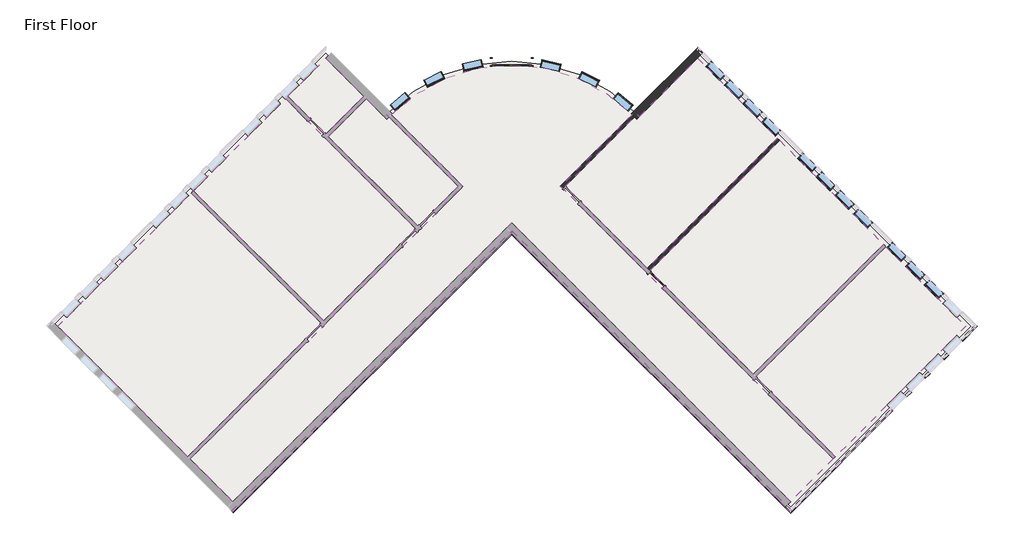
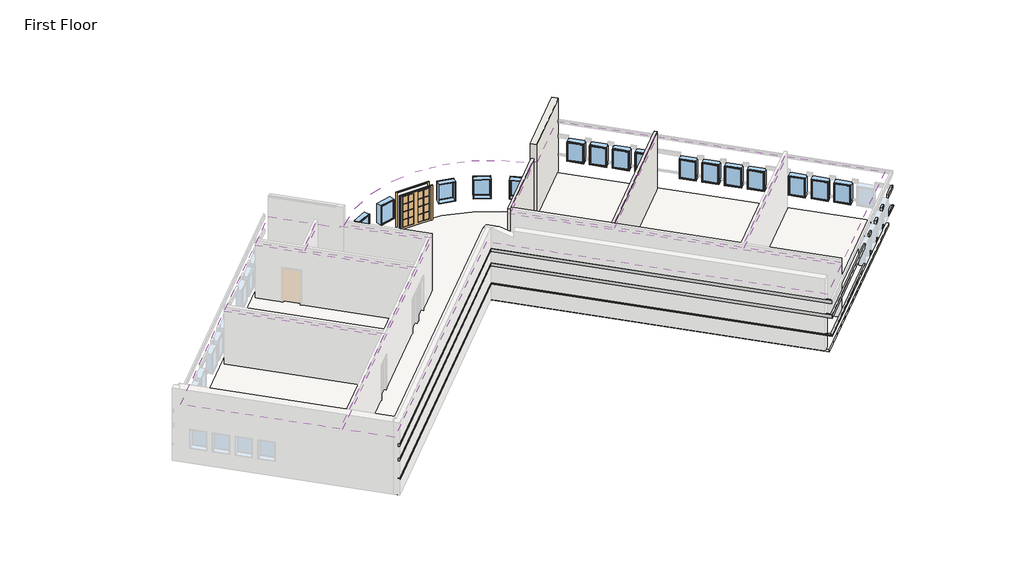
# One storey, part 2 of 3: 17 windows, 9 coverings, 8 proxies, 3 walls, 2 doors, 1 slab.
"""IFC4 building model written with IfcOpenShell, lengths in millimetres."""

from ifc_helpers import new_model, si_unit, point, frame, frame_2d, origin, origin_with_axes, place, context, project, spatial, polyline, circle_curve, trimmed, segment, composite_curve, outline, extrude, faceted_brep, transform, mapped, element, save
from ifc_brep_helpers import plane_surface, cylinder_surface, revolved_surface, advanced_brep
from components import door_0a477ef8, door_5f5b55da, window_15c49d37, window_0e2fc6ce

model = new_model("IFC4")

# Units and contexts
model_context = context("Model", 3, world=origin())
ifc_project = project(units=[si_unit("LENGTHUNIT", "METRE", prefix="MILLI")], contexts=[model_context])

# Site, building, storey
site = spatial("IfcSite", under=ifc_project)
building = spatial("IfcBuilding", under=site)
storey = spatial("IfcBuildingStorey", under=building, Name="First Floor", Elevation=0.0)

# Proxies
placement = place(None, origin())
element("IfcBuildingElementProxy", 1, Name="Wall Sweeps", at=placement, inside=storey, context=model_context, shape_type="Brep", body=[
    faceted_brep([(18554.3726125, -1357.9895101, 1085.85), (18684.5863263, -1357.9895101, 1085.85), (18733.9777349, -1357.9895101, 1041.4), (18733.9777349, -1357.9895101, 1016.0), (18554.3726125, -1357.9895101, 1016.0), (17956.0630484, -1956.2990742, 1085.85), (17956.0630484, -1956.2990742, 1016.0), (18021.1699053, -2021.405931, 1016.0), (18045.8656096, -2046.1016354, 1016.0), (18045.8656096, -2046.1016354, 1041.4), (18021.1699053, -2021.405931, 1085.85), (18370.277362, -1542.0847606, 1085.85), (18370.277362, -1542.0847606, 1016.0)], [[[0, 1, 2, 3, 4]], [[5, 6, 7, 8, 9, 10]], [[1, 0, 11, 5, 10]], [[2, 1, 10, 9]], [[3, 2, 9, 8]], [[4, 3, 8, 7, 6, 12]], [[0, 4, 12, 6, 5, 11]]]),
    faceted_brep([(17309.4846077, -2602.8775149, 1085.85), (17374.5914646, -2667.9843718, 1085.85), (17399.2871689, -2692.6800761, 1041.4), (17399.2871689, -2692.6800761, 1016.0), (17374.5914646, -2667.9843718, 1016.0), (17309.4846077, -2602.8775149, 1016.0), (17093.9584608, -2818.4036618, 1085.85), (17093.9584608, -2818.4036618, 1016.0), (17159.0653177, -2883.5105187, 1016.0), (17183.761022, -2908.206223, 1016.0), (17183.761022, -2908.206223, 1041.4), (17159.0653177, -2883.5105187, 1085.85)], [[[0, 1, 2, 3, 4, 5]], [[6, 7, 8, 9, 10, 11]], [[1, 0, 6, 11]], [[2, 1, 11, 10]], [[3, 2, 10, 9]], [[5, 4, 3, 9, 8, 7]], [[0, 5, 7, 6]]]),
    faceted_brep([(16447.3800201, -3464.9821025, 1085.85), (16512.486877, -3530.0889594, 1085.85), (16537.1825813, -3554.7846637, 1041.4), (16537.1825813, -3554.7846637, 1016.0), (16512.486877, -3530.0889594, 1016.0), (16447.3800201, -3464.9821025, 1016.0), (16231.8538732, -3680.5082494, 1085.85), (16231.8538732, -3680.5082494, 1016.0), (16296.9607301, -3745.6151063, 1016.0), (16321.6564344, -3770.3108106, 1016.0), (16321.6564344, -3770.3108106, 1041.4), (16296.9607301, -3745.6151063, 1085.85)], [[[0, 1, 2, 3, 4, 5]], [[6, 7, 8, 9, 10, 11]], [[1, 0, 6, 11]], [[2, 1, 11, 10]], [[3, 2, 10, 9]], [[5, 4, 3, 9, 8, 7]], [[0, 5, 7, 6]]]),
    faceted_brep([(15585.2754325, -4327.0866901, 1085.85), (15650.3822894, -4392.193547, 1085.85), (15675.0779937, -4416.8892513, 1041.4), (15675.0779937, -4416.8892513, 1016.0), (15650.3822894, -4392.193547, 1016.0), (15585.2754325, -4327.0866901, 1016.0), (15369.7492856, -4542.612837, 1085.85), (15369.7492856, -4542.612837, 1016.0), (15434.8561424, -4607.7196939, 1016.0), (15459.5518468, -4632.4153982, 1016.0), (15459.5518468, -4632.4153982, 1041.4), (15434.8561424, -4607.7196939, 1085.85)], [[[0, 1, 2, 3, 4, 5]], [[6, 7, 8, 9, 10, 11]], [[1, 0, 6, 11]], [[2, 1, 11, 10]], [[3, 2, 10, 9]], [[5, 4, 3, 9, 8, 7]], [[0, 5, 7, 6]]]),
    faceted_brep([(14723.1708449, -5189.1912777, 1085.85), (14788.2777017, -5254.2981346, 1085.85), (14812.9734061, -5278.993839, 1041.4), (14812.9734061, -5278.993839, 1016.0), (14788.2777017, -5254.2981346, 1016.0), (14723.1708449, -5189.1912777, 1016.0), (10063.54045, -9848.8216726, 1085.85), (10063.54045, -9848.8216726, 1016.0), (10063.54045, -10028.426795, 1016.0), (10063.54045, -10028.426795, 1041.4), (10063.54045, -9979.0353863, 1085.85)], [[[0, 1, 2, 3, 4, 5]], [[6, 7, 8, 9, 10]], [[1, 0, 6, 10]], [[2, 1, 10, 9]], [[3, 2, 9, 8]], [[5, 4, 3, 8, 7]], [[0, 5, 7, 6]]]),
])
element("IfcBuildingElementProxy", 2, Name="Wall Sweeps", at=placement, inside=storey, context=model_context, shape_type="Brep", body=[
    faceted_brep([(18684.5863263, -1357.9895101, 2336.8), (18684.5863263, -1357.9895101, 2133.6), (18554.3726125, -1357.9895101, 2133.6), (18554.3726125, -1357.9895101, 2336.8), (18021.1699053, -2021.405931, 2336.8), (17956.0630484, -1956.2990742, 2336.8), (17956.0630484, -1956.2990742, 2133.6), (18021.1699053, -2021.405931, 2133.6), (18435.3842189, -1607.1916175, 2336.8), (18435.3842189, -1607.1916175, 2133.6), (18370.277362, -1542.0847606, 2133.6), (18370.277362, -1542.0847606, 2336.8)], [[[0, 1, 2, 3]], [[4, 5, 6, 7]], [[1, 0, 8, 4, 7, 9]], [[2, 1, 9, 7, 6, 10]], [[3, 2, 10, 6, 5, 11]], [[0, 3, 11, 5, 4, 8]]]),
    faceted_brep([(17374.5914646, -2667.9843718, 2336.8), (17374.5914646, -2667.9843718, 2133.6), (17309.4846077, -2602.8775149, 2133.6), (17309.4846077, -2602.8775149, 2336.8), (17159.0653177, -2883.5105187, 2336.8), (17093.9584608, -2818.4036618, 2336.8), (17093.9584608, -2818.4036618, 2133.6), (17159.0653177, -2883.5105187, 2133.6)], [[[0, 1, 2, 3]], [[4, 5, 6, 7]], [[1, 0, 4, 7]], [[2, 1, 7, 6]], [[3, 2, 6, 5]], [[0, 3, 5, 4]]]),
    faceted_brep([(16512.486877, -3530.0889594, 2336.8), (16512.486877, -3530.0889594, 2133.6), (16447.3800201, -3464.9821025, 2133.6), (16447.3800201, -3464.9821025, 2336.8), (16296.9607301, -3745.6151063, 2336.8), (16231.8538732, -3680.5082494, 2336.8), (16231.8538732, -3680.5082494, 2133.6), (16296.9607301, -3745.6151063, 2133.6)], [[[0, 1, 2, 3]], [[4, 5, 6, 7]], [[1, 0, 4, 7]], [[2, 1, 7, 6]], [[3, 2, 6, 5]], [[0, 3, 5, 4]]]),
    faceted_brep([(15650.3822894, -4392.193547, 2336.8), (15650.3822894, -4392.193547, 2133.6), (15585.2754325, -4327.0866901, 2133.6), (15585.2754325, -4327.0866901, 2336.8), (15434.8561424, -4607.7196939, 2336.8), (15369.7492856, -4542.612837, 2336.8), (15369.7492856, -4542.612837, 2133.6), (15434.8561424, -4607.7196939, 2133.6)], [[[0, 1, 2, 3]], [[4, 5, 6, 7]], [[1, 0, 4, 7]], [[2, 1, 7, 6]], [[3, 2, 6, 5]], [[0, 3, 5, 4]]]),
    faceted_brep([(14788.2777017, -5254.2981346, 2336.8), (14788.2777017, -5254.2981346, 2133.6), (14723.1708449, -5189.1912777, 2133.6), (14723.1708449, -5189.1912777, 2336.8), (10063.54045, -9979.0353863, 2336.8), (10063.54045, -9848.8216726, 2336.8), (10063.54045, -9848.8216726, 2133.6), (10063.54045, -9979.0353863, 2133.6)], [[[0, 1, 2, 3]], [[4, 5, 6, 7]], [[1, 0, 4, 7]], [[2, 1, 7, 6]], [[3, 2, 6, 5]], [[0, 3, 5, 4]]]),
])
element("IfcBuildingElementProxy", 3, Name="Wall Sweeps", at=placement, inside=storey, context=model_context, shape_type="Brep", body=[
    faceted_brep([(10063.54045, -9848.8216726, 1085.85), (10063.54045, -9979.0353863, 1085.85), (10063.54045, -10028.426795, 1041.4), (10063.54045, -10028.426795, 1016.0), (10063.54045, -9848.8216726, 1016.0), (-2868.0283643, 3082.7471418, 1085.85), (-2868.0283643, 3082.7471418, 1016.0), (-2868.0283643, 2903.1420194, 1016.0), (-2868.0283643, 2903.1420194, 1041.4), (-2868.0283643, 2952.533428, 1085.85), (9879.4451996, -9664.7264221, 1085.85), (9879.4451996, -9664.7264221, 1016.0)], [[[0, 1, 2, 3, 4]], [[5, 6, 7, 8, 9]], [[1, 0, 10, 5, 9]], [[2, 1, 9, 8]], [[3, 2, 8, 7]], [[4, 3, 7, 6, 11]], [[0, 4, 11, 6, 5, 10]]]),
])
element("IfcBuildingElementProxy", 4, Name="Wall Sweeps", at=placement, inside=storey, context=model_context, shape_type="Brep", body=[
    faceted_brep([(10063.54045, -9979.0353863, 2336.8), (10063.54045, -9979.0353863, 2133.6), (10063.54045, -9848.8216726, 2133.6), (10063.54045, -9848.8216726, 2336.8), (-2868.0283643, 2952.533428, 2336.8), (-2868.0283643, 3082.7471418, 2336.8), (-2868.0283643, 3082.7471418, 2133.6), (-2868.0283643, 2952.533428, 2133.6), (9814.3383427, -9729.833279, 2336.8), (9814.3383427, -9729.833279, 2133.6), (9879.4451996, -9664.7264221, 2133.6), (9879.4451996, -9664.7264221, 2336.8)], [[[0, 1, 2, 3]], [[4, 5, 6, 7]], [[1, 0, 8, 4, 7, 9]], [[2, 1, 9, 7, 6, 10]], [[3, 2, 10, 6, 5, 11]], [[0, 3, 11, 5, 4, 8]]]),
])
element("IfcBuildingElementProxy", 5, Name="Wall Sweeps", at=placement, inside=storey, context=model_context, shape_type="Brep", body=[
    faceted_brep([(10063.54045, -9979.0353863, 3251.2), (10063.54045, -9979.0353863, 3048.0), (10063.54045, -9848.8216726, 3048.0), (10063.54045, -9848.8216726, 3251.2), (-2868.0283643, 2952.533428, 3251.2), (-2868.0283643, 3082.7471418, 3251.2), (-2868.0283643, 3082.7471418, 3048.0), (-2868.0283643, 2952.533428, 3048.0), (9814.3383427, -9729.833279, 3251.2), (9814.3383427, -9729.833279, 3048.0), (9879.4451996, -9664.7264221, 3048.0), (9879.4451996, -9664.7264221, 3251.2)], [[[0, 1, 2, 3]], [[4, 5, 6, 7]], [[1, 0, 8, 4, 7, 9]], [[2, 1, 9, 7, 6, 10]], [[3, 2, 10, 6, 5, 11]], [[0, 3, 11, 5, 4, 8]]]),
])
element("IfcBuildingElementProxy", 6, Name="Wall Sweeps", at=placement, inside=storey, context=model_context, shape_type="Brep", body=[
    faceted_brep([(-2868.0283643, 3082.7471418, 1085.85), (-2868.0283643, 2952.533428, 1085.85), (-2868.0283643, 2903.1420194, 1041.4), (-2868.0283643, 2903.1420194, 1016.0), (-2868.0283643, 3082.7471418, 1016.0), (-15864.7040355, -9913.9285294, 1085.85), (-15864.7040355, -9913.9285294, 1016.0), (-15799.5971786, -9979.0353863, 1016.0), (-15774.9014743, -10003.7310907, 1016.0), (-15774.9014743, -10003.7310907, 1041.4), (-15799.5971786, -9979.0353863, 1085.85), (-2933.1352212, 3017.6402849, 1085.85), (-2933.1352212, 3017.6402849, 1016.0)], [[[0, 1, 2, 3, 4]], [[5, 6, 7, 8, 9, 10]], [[1, 0, 11, 5, 10]], [[2, 1, 10, 9]], [[3, 2, 9, 8]], [[4, 3, 8, 7, 6, 12]], [[0, 4, 12, 6, 5, 11]]]),
])
element("IfcBuildingElementProxy", 7, Name="Wall Sweeps", at=placement, inside=storey, context=model_context, shape_type="Brep", body=[
    faceted_brep([(-2868.0283643, 2952.533428, 2336.8), (-2868.0283643, 2952.533428, 2133.6), (-2868.0283643, 3082.7471418, 2133.6), (-2868.0283643, 3082.7471418, 2336.8), (-15799.5971786, -9979.0353863, 2336.8), (-15864.7040355, -9913.9285294, 2336.8), (-15864.7040355, -9913.9285294, 2133.6), (-15799.5971786, -9979.0353863, 2133.6), (-2933.1352212, 3017.6402849, 2133.6), (-2933.1352212, 3017.6402849, 2336.8)], [[[0, 1, 2, 3]], [[4, 5, 6, 7]], [[1, 0, 4, 7]], [[2, 1, 7, 6, 8]], [[3, 2, 8, 6, 5, 9]], [[0, 3, 9, 5, 4]]]),
])
element("IfcBuildingElementProxy", 8, Name="Wall Sweeps", at=placement, inside=storey, context=model_context, shape_type="Brep", body=[
    faceted_brep([(-2868.0283643, 2952.533428, 3251.2), (-2868.0283643, 2952.533428, 3048.0), (-2868.0283643, 3082.7471418, 3048.0), (-2868.0283643, 3082.7471418, 3251.2), (-15799.5971786, -9979.0353863, 3251.2), (-15864.7040355, -9913.9285294, 3251.2), (-15864.7040355, -9913.9285294, 3048.0), (-15799.5971786, -9979.0353863, 3048.0), (-2933.1352212, 3017.6402849, 3048.0), (-2933.1352212, 3017.6402849, 3251.2)], [[[0, 1, 2, 3]], [[4, 5, 6, 7]], [[1, 0, 4, 7]], [[2, 1, 7, 6, 8]], [[3, 2, 8, 6, 5, 9]], [[0, 3, 9, 5, 4]]]),
])

# Coverings
element("IfcCovering", 9, ObjectType="2' x 2' ACT System", at=placement, inside=storey, context=model_context, shape_type="SweptSolid", body=[
    extrude(outline(polyline([(-17633.6967091, 4930.552621), (-13359.2125777, 9205.0367523), (-7322.2354004, 3168.0595749), (-11596.7195317, -1106.4245564), (-17633.6967091, 4930.552621)])), frame((0.0, 0.0, 3352.8), z_axis=(0.0, 0.0, 1.0), x_axis=(1.0, 0.0, 0.0)), (0.0, 0.0, 1.0), 57.15),
])
element("IfcCovering", 10, ObjectType="2' x 2' ACT System", at=placement, inside=storey, context=model_context, shape_type="SweptSolid", body=[
    extrude(outline(polyline([(-11706.7276692, -1216.4326939), (-17885.2616628, -7394.9666875), (-23922.2388402, -1357.9895101), (-17743.7048466, 4820.5444835), (-11706.7276692, -1216.4326939)])), frame((0.0, 0.0, 3352.8), z_axis=(0.0, 0.0, 1.0), x_axis=(1.0, 0.0, 0.0)), (0.0, 0.0, 1.0), 57.15),
])
element("IfcCovering", 11, ObjectType="2' x 2' ACT System", at=placement, inside=storey, context=model_context, shape_type="SweptSolid", body=[
    extrude(outline(composite_curve([segment(polyline([(-607.4844504, 5141.7064221), (12039.1967967, -7504.974825), (10063.54045, -9480.6311716), (-2868.0283643, 3450.9376427), (-15799.5971786, -9480.6311716), (-17775.2535253, -7504.974825), (-5128.5722782, 5141.7064221), (-8449.0111375, 8462.1452813)]), True, "CONTINUOUS"), segment(trimmed(circle_curve(frame_2d((-2868.0283643, 2903.1420194)), 7877.175), [point((-8449.0111375, 8462.1452813))], [point((2712.9544089, 8462.1452813))], False, "CARTESIAN"), True, "CONTINUOUS"), segment(polyline([(2712.9544089, 8462.1452813), (-607.4844504, 5141.7064221)]), True, "CONTINUOUS")], self_intersect=False)), frame((0.0, 0.0, 3352.8), z_axis=(0.0, 0.0, 1.0), x_axis=(1.0, 0.0, 0.0)), (0.0, 0.0, 1.0), 57.15),
])
element("IfcCovering", 12, ObjectType="2' x 2' ACT System", at=placement, inside=storey, context=model_context, shape_type="SweptSolid", body=[
    extrude(outline(polyline([(-13249.2044403, 9315.0448898), (-11489.0742405, 11075.1750895), (-9728.9440408, 9315.0448898), (-11489.0742405, 7554.9146901), (-13249.2044403, 9315.0448898)])), frame((0.0, 0.0, 3352.8), z_axis=(0.0, 0.0, 1.0), x_axis=(1.0, 0.0, 0.0)), (0.0, 0.0, 1.0), 57.15),
])
element("IfcCovering", 13, ObjectType="2' x 2' ACT System", at=placement, inside=storey, context=model_context, shape_type="SweptSolid", body=[
    extrude(outline(polyline([(-11379.066103, 7444.9065526), (-9618.9359033, 9205.0367523), (-8786.2632499, 8372.3640989), (-8682.75474, 8475.8726089), (-5348.5885532, 5141.7064221), (-7212.2272629, 3278.0677124), (-11379.066103, 7444.9065526)])), frame((0.0, 0.0, 3352.8), z_axis=(0.0, 0.0, 1.0), x_axis=(1.0, 0.0, 0.0)), (0.0, 0.0, 1.0), 57.15),
])
element("IfcCovering", 14, ObjectType="2' x 2' ACT System", at=placement, inside=storey, context=model_context, shape_type="SweptSolid", body=[
    extrude(outline(composite_curve([segment(polyline([(-607.4844504, 5141.7064221), (12039.1967967, -7504.974825), (10063.54045, -9480.6311716), (-2868.0283643, 3450.9376427), (-15799.5971786, -9480.6311716), (-17775.2535253, -7504.974825), (-5128.5722782, 5141.7064221), (-8449.0111375, 8462.1452813)]), True, "CONTINUOUS"), segment(trimmed(circle_curve(frame_2d((-2868.0283643, 2903.1420194)), 7877.175), [point((-8449.0111375, 8462.1452813))], [point((2712.9544089, 8462.1452813))], False, "CARTESIAN"), True, "CONTINUOUS"), segment(polyline([(2712.9544089, 8462.1452813), (-607.4844504, 5141.7064221)]), True, "CONTINUOUS")], self_intersect=False)), frame((0.0, 0.0, 3352.8), z_axis=(0.0, 0.0, 1.0), x_axis=(1.0, 0.0, 0.0)), (0.0, 0.0, 1.0), 57.15),
])
element("IfcCovering", 15, ObjectType="2' x 2' ACT System", at=placement, inside=storey, context=model_context, shape_type="SweptSolid", body=[
    extrude(outline(polyline([(2946.6980114, 8475.8726089), (3050.2065213, 8372.3640989), (5753.0175119, 11075.1750895), (9452.8830338, 7375.3095676), (3415.9058564, 1338.3323903), (-387.4681754, 5141.7064221), (2946.6980114, 8475.8726089)])), frame((0.0, 0.0, 3352.8), z_axis=(0.0, 0.0, 1.0), x_axis=(1.0, 0.0, 0.0)), (0.0, 0.0, 1.0), 57.15),
])
element("IfcCovering", 16, ObjectType="2' x 2' ACT System", at=placement, inside=storey, context=model_context, shape_type="SweptSolid", body=[
    extrude(outline(polyline([(3525.9139939, 1228.3242528), (9562.8911713, 7265.3014302), (14376.3084522, 2451.8841493), (8339.3312748, -3585.0930281), (3525.9139939, 1228.3242528)])), frame((0.0, 0.0, 3352.8), z_axis=(0.0, 0.0, 1.0), x_axis=(1.0, 0.0, 0.0)), (0.0, 0.0, 1.0), 57.15),
])
element("IfcCovering", 17, ObjectType="2' x 2' ACT System", at=placement, inside=storey, context=model_context, shape_type="SweptSolid", body=[
    extrude(outline(polyline([(8449.3394123, -3695.1011656), (14486.3165897, 2341.8760118), (18186.1821115, -1357.9895101), (12149.2049342, -7394.9666875), (8449.3394123, -3695.1011656)])), frame((0.0, 0.0, 3352.8), z_axis=(0.0, 0.0, 1.0), x_axis=(1.0, 0.0, 0.0)), (0.0, 0.0, 1.0), 57.15),
])

# Doors
door_shape = door_0a477ef8(model_context)
element("IfcDoor", 18, ObjectType="Double-Glass 2 : 72\" x 84\"", at=placement, inside=storey, context=model_context, shape_type="MappedRepresentation", body=[
    mapped(door_shape, transform((-2868.7603243, 10905.5717204, 0.0), x_axis=(-0.9999999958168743, -9.146721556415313e-05, 0.0), y_axis=(9.146721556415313e-05, -0.9999999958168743, 0.0), z_axis=(0.0, 0.0, 1.0))),
])
door_2_shape = door_5f5b55da(model_context)
element("IfcDoor", 19, ObjectType="Single-Glass 1 : 36\" x 84\"", at=placement, inside=storey, context=model_context, shape_type="MappedRepresentation", body=[
    mapped(door_2_shape, transform((3846.9581502, 797.271959, 0.0), x_axis=(-0.7071067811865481, 0.7071067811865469, 0.0), y_axis=(-0.7071067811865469, -0.7071067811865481, 0.0), z_axis=(0.0, 0.0, 1.0))),
])

# Slab
element("IfcSlab", 20, ObjectType="LW Concrete on Metal Deck", at=placement, inside=storey, context=model_context, shape_type="SweptSolid", body=[
    extrude(outline(composite_curve([segment(polyline([(-11489.0742405, 11308.6617487), (-8661.5174871, 8481.1049952)]), True, "CONTINUOUS"), segment(trimmed(circle_curve(frame_2d((-2868.0283643, 2903.1420194)), 8042.275), [point((-8661.5174871, 8481.1049952))], [point((2925.4607585, 8481.1049952))], False, "CARTESIAN"), True, "CONTINUOUS"), segment(polyline([(2925.4607585, 8481.1049952), (5753.0175119, 11308.6617487), (18419.6687707, -1357.9895101), (10063.54045, -9714.1178307), (-2868.0283643, 3217.4509836), (-15799.5971786, -9714.1178307), (-24155.7254993, -1357.9895101), (-11489.0742405, 11308.6617487)]), True, "CONTINUOUS")], self_intersect=False)), frame((0.0, 0.0, -139.7), z_axis=(0.0, 0.0, 1.0), x_axis=(1.0, 0.0, 0.0)), (0.0, 0.0, 1.0), 139.7),
])

# Walls
element("IfcWall", 21, ObjectType="Exterior - Split Face and CMU on Mtl. Stud", at=placement, inside=storey, context=model_context, shape_type="AdvancedBrep", body=[
    advanced_brep(
    [(2921.9555443, 8244.1131219, 0.0), (5753.0175119, 11075.1750895, 0.0), (6002.2196193, 11324.3771969, 0.0), (6002.2196193, 11324.3771969, 1016.0), (5937.1127624, 11259.27034, 1016.0), (5937.1127624, 11259.27034, 1085.85), (6002.2196193, 11324.3771969, 1085.85), (6002.2196193, 11324.3771969, 2133.6), (5937.1127624, 11259.27034, 2133.6), (5937.1127624, 11259.27034, 2336.8), (6002.2196193, 11324.3771969, 2336.8), (6002.2196193, 11324.3771969, 3048.0), (5937.1127624, 11259.27034, 3048.0), (5937.1127624, 11259.27034, 3251.2), (6002.2196193, 11324.3771969, 3251.2), (6002.2196193, 11324.3771969, 4572.0), (5753.0175119, 11075.1750895, 4572.0), (2921.9555443, 8244.1131219, 4572.0), (2677.2250436, 8497.7868359, 4572.0), (2926.4294954, 8746.9912878, 4572.0), (5753.0175119, 11573.5793042, 4572.0), (5753.0175119, 11573.5793042, 3251.2), (2926.4294954, 8746.9912878, 3251.2), (2861.3220456, 8681.8838379, 3251.2), (2861.3220456, 8681.8838379, 3048.0), (2926.4294954, 8746.9912878, 3048.0), (5753.0175119, 11573.5793042, 3048.0), (5753.0175119, 11573.5793042, 2336.8), (2926.4294954, 8746.9912878, 2336.8), (2861.3220456, 8681.8838379, 2336.8), (2861.3220456, 8681.8838379, 2133.6), (2926.4294954, 8746.9912878, 2133.6), (5753.0175119, 11573.5793042, 2133.6), (5753.0175119, 11573.5793042, 1085.85), (2926.4294954, 8746.9912878, 1085.85), (2861.3220456, 8681.8838379, 1085.85), (2861.3220456, 8681.8838379, 1016.0), (2926.4294954, 8746.9912878, 1016.0), (5753.0175119, 11573.5793042, 1016.0), (5753.0175119, 11573.5793042, 0.0), (2926.4294954, 8746.9912878, 0.0), (2677.2250436, 8497.7868359, 0.0), (5818.1243688, 11508.4724474, 0.0), (2712.9544089, 8462.1452813, 0.0), (2742.2400511, 8432.5881297, 0.0), (2821.6568654, 8350.8358404, 0.0), (5753.0175119, 11443.3655905, 1085.85), (2926.3399919, 8616.6880705, 1085.85), (2926.3399919, 8616.6880705, 1016.0), (5753.0175119, 11443.3655905, 1016.0), (2926.3399919, 8616.6880705, 2133.6), (5753.0175119, 11443.3655905, 2133.6), (2926.3399919, 8616.6880705, 2336.8), (5753.0175119, 11443.3655905, 2336.8), (2926.3399919, 8616.6880705, 3048.0), (5753.0175119, 11443.3655905, 3048.0), (2926.3399919, 8616.6880705, 3251.2), (5753.0175119, 11443.3655905, 3251.2)],
    [
        (0, 1),
        (1, 2),
        (2, 3),
        (3, 4),
        (4, 5),
        (5, 6),
        (6, 7),
        (7, 8),
        (8, 9),
        (9, 10),
        (10, 11),
        (11, 12),
        (12, 13),
        (13, 14),
        (14, 15),
        (15, 16),
        (16, 17),
        (17, 0),
        (18, 19),
        (19, 20),
        (20, 21),
        (21, 22),
        (22, 23),
        (23, 24),
        (24, 25),
        (25, 26),
        (26, 27),
        (27, 28),
        (28, 29),
        (29, 30),
        (30, 31),
        (31, 32),
        (32, 33),
        (33, 34),
        (34, 35),
        (35, 36),
        (36, 37),
        (37, 38),
        (38, 39),
        (39, 40),
        (40, 41),
        (41, 18),
        (15, 20),
        (18, 17, circle_curve(frame((-2868.0283643, 2903.1420194, 4572.0), z_axis=(0.0, 0.0, -1.0), x_axis=(1.0, 0.0, 0.0)), 7877.175)),
        (14, 21),
        (2, 42),
        (42, 39),
        (38, 3),
        (6, 33),
        (32, 7),
        (10, 27),
        (26, 11),
        (41, 43, circle_curve(frame((-2868.0283643, 2903.1420194, 0.0), z_axis=(0.0, 0.0, -1.0), x_axis=(1.0, 0.0, 0.0)), 7877.175)),
        (43, 44, circle_curve(frame((-2868.0283643, 2903.1420194, 0.0), z_axis=(0.0, 0.0, -1.0), x_axis=(1.0, 0.0, 0.0)), 7877.175)),
        (44, 45, circle_curve(frame((-2868.0283643, 2903.1420194, 0.0), z_axis=(0.0, 0.0, -1.0), x_axis=(1.0, 0.0, 0.0)), 7877.175)),
        (45, 0, circle_curve(frame((-2868.0283643, 2903.1420194, 0.0), z_axis=(0.0, 0.0, -1.0), x_axis=(1.0, 0.0, 0.0)), 7877.175)),
        (44, 42),
        (46, 47),
        (47, 35, circle_curve(frame((-2868.0283643, 2903.1420194, 1085.85), z_axis=(0.0, 0.0, 1.0), x_axis=(0.6844196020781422, 0.7290883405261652, 0.0)), 8137.525)),
        (5, 46),
        (48, 49),
        (49, 4),
        (36, 48, circle_curve(frame((-2868.0283643, 2903.1420194, 1016.0), z_axis=(0.0, 0.0, -1.0), x_axis=(0.6844196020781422, 0.7290883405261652, 0.0)), 8137.525)),
        (47, 48),
        (46, 49),
        (50, 51),
        (51, 8),
        (30, 50, circle_curve(frame((-2868.0283643, 2903.1420194, 2133.6), z_axis=(0.0, 0.0, -1.0), x_axis=(0.6844196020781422, 0.7290883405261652, 0.0)), 8137.525)),
        (52, 50),
        (29, 52, circle_curve(frame((-2868.0283643, 2903.1420194, 2336.8), z_axis=(0.0, 0.0, -1.0), x_axis=(0.6844196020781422, 0.7290883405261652, 0.0)), 8137.525)),
        (53, 52),
        (9, 53),
        (53, 51),
        (54, 55),
        (55, 12),
        (24, 54, circle_curve(frame((-2868.0283643, 2903.1420194, 3048.0), z_axis=(0.0, 0.0, -1.0), x_axis=(-0.7040995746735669, 0.7101012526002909, 0.0)), 8137.525)),
        (56, 54),
        (23, 56, circle_curve(frame((-2868.0283643, 2903.1420194, 3251.2), z_axis=(0.0, 0.0, -1.0), x_axis=(-0.7040995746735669, 0.7101012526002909, 0.0)), 8137.525)),
        (57, 56),
        (13, 57),
        (57, 55),
    ],
    [
        plane_surface(frame((2984.8535626, 8307.0111402, 0.0), z_axis=(0.707106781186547, -0.7071067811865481, 0.0), x_axis=(0.7071067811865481, 0.707106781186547, 0.0))),
        plane_surface(frame((2735.6514552, 8556.2132476, 0.0), z_axis=(-0.707106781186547, 0.7071067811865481, 0.0), x_axis=(-0.7071067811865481, -0.707106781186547, 0.0))),
        plane_surface(frame((5877.6185656, 11199.7761432, 4572.0), z_axis=(0.0, 0.0, 1.0), x_axis=(-0.707106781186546, 0.7071067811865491, 0.0))),
        plane_surface(frame((5753.0175119, 11573.5793042, 0.0), z_axis=(0.7071067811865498, 0.7071067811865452, 0.0), x_axis=(-0.7071067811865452, 0.7071067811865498, 0.0))),
        revolved_surface(polyline([(5009.146635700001, 2903.1420194, 0.0), (5009.146635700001, 2903.1420194, 4572.0)]), (-2868.0283643, 2903.1420194, 0.0), (0.0, 0.0, -1.0)),
        plane_surface(frame((3050.2065213, 8372.3640989, 0.0), z_axis=(0.0, 0.0, -1.0000000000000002), x_axis=(-0.7071067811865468, 0.7071067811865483, 0.0))),
        plane_surface(frame((0.0, 0.0, 0.0), z_axis=(0.0, 0.0, -1.0), x_axis=(1.0, 0.0, 0.0))),
        plane_surface(frame((-2868.0283643, 2903.1420194, 1085.85), z_axis=(0.0, 0.0, -1.0), x_axis=(0.6844196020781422, 0.7290883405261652, 0.0))),
        plane_surface(frame((-2868.0283643, 2903.1420194, 1016.0), z_axis=(0.0, 0.0, 1.0), x_axis=(0.6844196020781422, 0.7290883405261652, 0.0))),
        cylinder_surface(frame((-2868.0283643, 2903.1420194, 1016.0), z_axis=(0.0, 0.0, -1.0), x_axis=(0.6844196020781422, 0.7290883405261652, 0.0)), 8137.525),
        plane_surface(frame((2926.3399919, 8616.6880705, 1016.0), z_axis=(-0.7071067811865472, 0.7071067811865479, 0.0), x_axis=(0.7071067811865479, 0.7071067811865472, 0.0))),
        plane_surface(frame((5753.0175119, 11443.3655905, 1016.0), z_axis=(0.7071067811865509, 0.7071067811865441, 0.0), x_axis=(0.7071067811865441, -0.7071067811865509, 0.0))),
        plane_surface(frame((-2868.0283643, 2903.1420194, 2133.6), z_axis=(0.0, 0.0, 1.0), x_axis=(0.6844196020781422, 0.7290883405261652, 0.0))),
        cylinder_surface(frame((-2868.0283643, 2903.1420194, 2133.6), z_axis=(0.0, 0.0, -1.0), x_axis=(0.6844196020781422, 0.7290883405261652, 0.0)), 8137.525),
        plane_surface(frame((-2868.0283643, 2903.1420194, 2336.8), z_axis=(0.0, 0.0, -1.0), x_axis=(0.6844196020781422, 0.7290883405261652, 0.0))),
        plane_surface(frame((2926.3399919, 8616.6880705, 2133.6), z_axis=(-0.7071067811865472, 0.7071067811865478, 0.0), x_axis=(0.7071067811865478, 0.7071067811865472, 0.0))),
        plane_surface(frame((5753.0175119, 11443.3655905, 2133.6), z_axis=(0.7071067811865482, 0.7071067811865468, 0.0), x_axis=(0.7071067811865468, -0.7071067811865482, 0.0))),
        plane_surface(frame((-2868.0283643, 2903.1420194, 3048.0), z_axis=(0.0, 0.0, 1.0), x_axis=(-0.7040995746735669, 0.7101012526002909, 0.0))),
        cylinder_surface(frame((-2868.0283643, 2903.1420194, 3048.0), z_axis=(0.0, 0.0, -1.0), x_axis=(-0.7040995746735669, 0.7101012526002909, 0.0)), 8137.525),
        plane_surface(frame((-2868.0283643, 2903.1420194, 3251.2), z_axis=(0.0, 0.0, -1.0), x_axis=(-0.7040995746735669, 0.7101012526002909, 0.0))),
        plane_surface(frame((2926.3399919, 8616.6880705, 3048.0), z_axis=(-0.7071067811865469, 0.7071067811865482, 0.0), x_axis=(0.7071067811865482, 0.7071067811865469, 0.0))),
        plane_surface(frame((5753.0175119, 11443.3655905, 3048.0), z_axis=(0.7071067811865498, 0.7071067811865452, 0.0), x_axis=(0.7071067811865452, -0.7071067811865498, 0.0))),
    ],
    [
        (0, [[1, 2, 3, 4, 5, 6, 7, 8, 9, 10, 11, 12, 13, 14, 15, 16, 17, 18]]),
        (1, [[19, 20, 21, 22, 23, 24, 25, 26, 27, 28, 29, 30, 31, 32, 33, 34, 35, 36, 37, 38, 39, 40, 41, 42]]),
        (2, [[-17, -16, 43, -20, -19, 44]]),
        (3, [[-43, -15, 45, -21]]),
        (3, [[46, 47, -39, 48, -3]]),
        (3, [[49, -33, 50, -7]]),
        (3, [[51, -27, 52, -11]]),
        (4, [[-44, -42, 53, 54, 55, 56, -18]]),
        (5, [[-2, -1, -56, -55, 57, -46]]),
        (6, [[-54, -53, -41, -40, -47, -57]]),
        (7, [[58, 59, -35, -34, -49, -6, 60]]),
        (8, [[61, 62, -4, -48, -38, -37, 63]]),
        (9, [[64, -63, -36, -59]]),
        (10, [[-58, 65, -61, -64]]),
        (11, [[-65, -60, -5, -62]]),
        (12, [[66, 67, -8, -50, -32, -31, 68]]),
        (13, [[69, -68, -30, 70]]),
        (14, [[71, -70, -29, -28, -51, -10, 72]]),
        (15, [[-66, -69, -71, 73]]),
        (16, [[-73, -72, -9, -67]]),
        (17, [[74, 75, -12, -52, -26, -25, 76]]),
        (18, [[77, -76, -24, 78]]),
        (19, [[79, -78, -23, -22, -45, -14, 80]]),
        (20, [[-74, -77, -79, 81]]),
        (21, [[-81, -80, -13, -75]]),
    ],
),
])
element("IfcWall", 22, ObjectType="Interior - 6 1/8\" Partition (2-hr)", at=placement, inside=storey, context=model_context, shape_type="AdvancedBrep", body=[
    advanced_brep(
    [(-497.4763129, 5031.6982846, 0.0), (-387.4681754, 5141.7064221, 0.0), (2821.6590066, 8350.8336041, 0.0), (2821.6590066, 8350.8336041, 3657.6), (-387.4681754, 5141.7064221, 3657.6), (-497.4763129, 5031.6982846, 3657.6), (-607.4844504, 5141.7064221, 0.0), (-607.4844504, 5141.7064221, 3657.6), (2712.9544089, 8462.1452813, 3657.6), (2712.9544089, 8462.1452813, 0.0)],
    [
        (0, 1),
        (1, 2),
        (2, 3),
        (3, 4),
        (4, 5),
        (5, 0),
        (6, 7),
        (7, 8),
        (8, 9),
        (9, 6),
        (0, 6),
        (9, 2, circle_curve(frame((-2868.0283643, 2903.1420194, 0.0), z_axis=(0.0, 0.0, -1.0), x_axis=(1.0, 0.0, 0.0)), 7877.175)),
        (3, 8, circle_curve(frame((-2868.0283643, 2903.1420194, 3657.6), z_axis=(0.0, 0.0, 1.0), x_axis=(1.0, 0.0, 0.0)), 7877.175)),
        (7, 5),
    ],
    [
        plane_surface(frame((-442.4722441, 5086.7023533, 0.0), z_axis=(0.7071067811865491, -0.7071067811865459, 0.0), x_axis=(0.7071067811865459, 0.7071067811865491, 0.0))),
        plane_surface(frame((-552.4803816, 5196.7104908, 0.0), z_axis=(-0.7071067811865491, 0.7071067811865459, 0.0), x_axis=(-0.7071067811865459, -0.7071067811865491, 0.0))),
        plane_surface(frame((-442.4722441, 5086.7023533, 0.0), z_axis=(0.0, 0.0, -1.0), x_axis=(-0.707106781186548, 0.7071067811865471, 0.0))),
        plane_surface(frame((2947.192033, 8476.3666305, 3657.6), z_axis=(0.0, 0.0, 1.0000000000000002), x_axis=(-0.7071067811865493, 0.7071067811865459, 0.0))),
        plane_surface(frame((12163.7978503, -7629.5758786, 0.0), z_axis=(-0.7071067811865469, -0.7071067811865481, 0.0), x_axis=(0.7071067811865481, -0.7071067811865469, 0.0))),
        cylinder_surface(frame((-2868.0283643, 2903.1420194, 0.0), z_axis=(0.0, 0.0, -1.0), x_axis=(1.0, 0.0, 0.0)), 7877.175),
    ],
    [
        (0, [[1, 2, 3, 4, 5, 6]]),
        (1, [[7, 8, 9, 10]]),
        (2, [[-2, -1, 11, -10, 12]]),
        (3, [[-5, -4, 13, -8, 14]]),
        (4, [[-6, -14, -7, -11]]),
        (5, [[-3, -12, -9, -13]]),
    ],
),
])
element("IfcWall", 23, ObjectType="Interior - 6 1/8\" Partition (2-hr)", at=placement, inside=storey, context=model_context, shape_type="SweptSolid", body=[
    extrude(outline(polyline([(3415.9058564, 1338.3323903), (9452.8830338, 7375.3095676), (9562.8911713, 7265.3014302), (3525.9139939, 1228.3242528), (3415.9058564, 1338.3323903)])), origin_with_axes(), (0.0, 0.0, 1.0), 3657.6),
])

# Windows
window_shape = window_15c49d37(model_context)
element("IfcWindow", 24, ObjectType="Fixed : 36\" x 48\"", at=placement, inside=storey, context=model_context, shape_type="MappedRepresentation", body=[
    mapped(window_shape, transform((-8066.2237793, 9037.6928325, 0.0), x_axis=(-0.7659856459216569, -0.6428576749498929, 0.0), y_axis=(0.6428576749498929, -0.7659856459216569, 0.0), z_axis=(0.0, 0.0, 1.0))),
])
element("IfcWindow", 25, ObjectType="Fixed : 36\" x 48\"", at=placement, inside=storey, context=model_context, shape_type="MappedRepresentation", body=[
    mapped(window_shape, transform((-4714.6266038, 10728.998151, 0.0), x_axis=(-0.9743494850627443, -0.2250401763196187, 0.0), y_axis=(0.2250401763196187, -0.9743494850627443, 0.0), z_axis=(0.0, 0.0, 1.0))),
])
element("IfcWindow", 26, ObjectType="Fixed : 36\" x 48\"", at=placement, inside=storey, context=model_context, shape_type="MappedRepresentation", body=[
    mapped(window_shape, transform((-6490.5147795, 10081.6893252, 0.0), x_axis=(-0.8948935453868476, -0.4462796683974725, 0.0), y_axis=(0.4462796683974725, -0.8948935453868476, 0.0), z_axis=(0.0, 0.0, 1.0))),
])
element("IfcWindow", 27, ObjectType="Fixed : 36\" x 48\"", at=placement, inside=storey, context=model_context, shape_type="MappedRepresentation", body=[
    mapped(window_shape, transform((6554.2698062, 10523.1249026, 0.0), x_axis=(-0.7071067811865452, 0.7071067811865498, 0.0), y_axis=(-0.7071067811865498, -0.7071067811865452, 0.0), z_axis=(0.0, 0.0, 1.0))),
])
element("IfcWindow", 28, ObjectType="Fixed : 36\" x 48\"", at=placement, inside=storey, context=model_context, shape_type="MappedRepresentation", body=[
    mapped(window_shape, transform((7416.3743938, 9661.020315, 0.0), x_axis=(-0.7071067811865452, 0.7071067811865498, 0.0), y_axis=(-0.7071067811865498, -0.7071067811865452, 0.0), z_axis=(0.0, 0.0, 1.0))),
])
element("IfcWindow", 29, ObjectType="Fixed : 36\" x 48\"", at=placement, inside=storey, context=model_context, shape_type="MappedRepresentation", body=[
    mapped(window_shape, transform((8278.4789814, 8798.9157274, 0.0), x_axis=(-0.7071067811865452, 0.7071067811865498, 0.0), y_axis=(-0.7071067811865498, -0.7071067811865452, 0.0), z_axis=(0.0, 0.0, 1.0))),
])
element("IfcWindow", 30, ObjectType="Fixed : 36\" x 48\"", at=placement, inside=storey, context=model_context, shape_type="MappedRepresentation", body=[
    mapped(window_shape, transform((9140.583569, 7936.8111398, 0.0), x_axis=(-0.7071067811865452, 0.7071067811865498, 0.0), y_axis=(-0.7071067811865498, -0.7071067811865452, 0.0), z_axis=(0.0, 0.0, 1.0))),
])
window_2_shape = window_0e2fc6ce(model_context)
element("IfcWindow", 31, ObjectType="Fixed : 36\" x 48\"", at=placement, inside=storey, context=model_context, shape_type="MappedRepresentation", body=[
    mapped(window_2_shape, transform((2271.4327875, 9086.2422995, 0.0), x_axis=(-0.765985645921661, 0.642857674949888, 0.0), y_axis=(-0.642857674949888, -0.765985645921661, 0.0), z_axis=(0.0, 0.0, 1.0))),
])
element("IfcWindow", 32, ObjectType="Fixed : 36\" x 48\"", at=placement, inside=storey, context=model_context, shape_type="MappedRepresentation", body=[
    mapped(window_2_shape, transform((-1095.8037333, 10745.5912454, 0.0), x_axis=(-0.9743494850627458, 0.2250401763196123, 0.0), y_axis=(-0.2250401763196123, -0.9743494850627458, 0.0), z_axis=(0.0, 0.0, 1.0))),
])
element("IfcWindow", 33, ObjectType="Fixed : 36\" x 48\"", at=placement, inside=storey, context=model_context, shape_type="MappedRepresentation", body=[
    mapped(window_2_shape, transform((686.0129721, 10115.1861252, 0.0), x_axis=(-0.8948935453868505, 0.44627966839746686, 0.0), y_axis=(-0.44627966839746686, -0.8948935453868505, 0.0), z_axis=(0.0, 0.0, 1.0))),
])
element("IfcWindow", 34, ObjectType="Fixed : 36\" x 48\"", at=placement, inside=storey, context=model_context, shape_type="MappedRepresentation", body=[
    mapped(window_2_shape, transform((16738.115812, 339.2788968, 0.0), x_axis=(0.7071067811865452, -0.7071067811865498, 0.0), y_axis=(0.7071067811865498, 0.7071067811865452, 0.0), z_axis=(0.0, 0.0, 1.0))),
])
element("IfcWindow", 35, ObjectType="Fixed : 36\" x 48\"", at=placement, inside=storey, context=model_context, shape_type="MappedRepresentation", body=[
    mapped(window_2_shape, transform((15876.0112244, 1201.3834844, 0.0), x_axis=(0.7071067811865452, -0.7071067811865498, 0.0), y_axis=(0.7071067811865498, 0.7071067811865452, 0.0), z_axis=(0.0, 0.0, 1.0))),
])
element("IfcWindow", 36, ObjectType="Fixed : 36\" x 48\"", at=placement, inside=storey, context=model_context, shape_type="MappedRepresentation", body=[
    mapped(window_2_shape, transform((15013.9066368, 2063.488072, 0.0), x_axis=(0.7071067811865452, -0.7071067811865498, 0.0), y_axis=(0.7071067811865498, 0.7071067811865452, 0.0), z_axis=(0.0, 0.0, 1.0))),
])
element("IfcWindow", 37, ObjectType="Fixed : 36\" x 48\"", at=placement, inside=storey, context=model_context, shape_type="MappedRepresentation", body=[
    mapped(window_2_shape, transform((13451.8134959, 3625.5812129, 0.0), x_axis=(0.7071067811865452, -0.7071067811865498, 0.0), y_axis=(0.7071067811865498, 0.7071067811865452, 0.0), z_axis=(0.0, 0.0, 1.0))),
])
element("IfcWindow", 38, ObjectType="Fixed : 36\" x 48\"", at=placement, inside=storey, context=model_context, shape_type="MappedRepresentation", body=[
    mapped(window_2_shape, transform((12589.7089082, 4487.6858006, 0.0), x_axis=(0.7071067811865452, -0.7071067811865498, 0.0), y_axis=(0.7071067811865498, 0.7071067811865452, 0.0), z_axis=(0.0, 0.0, 1.0))),
])
element("IfcWindow", 39, ObjectType="Fixed : 36\" x 48\"", at=placement, inside=storey, context=model_context, shape_type="MappedRepresentation", body=[
    mapped(window_2_shape, transform((11727.6043206, 5349.7903882, 0.0), x_axis=(0.7071067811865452, -0.7071067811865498, 0.0), y_axis=(0.7071067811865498, 0.7071067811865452, 0.0), z_axis=(0.0, 0.0, 1.0))),
])
element("IfcWindow", 40, ObjectType="Fixed : 36\" x 48\"", at=placement, inside=storey, context=model_context, shape_type="MappedRepresentation", body=[
    mapped(window_2_shape, transform((10865.499733, 6211.8949758, 0.0), x_axis=(0.7071067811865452, -0.7071067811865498, 0.0), y_axis=(0.7071067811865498, 0.7071067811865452, 0.0), z_axis=(0.0, 0.0, 1.0))),
])

save(model, "model.ifc")
